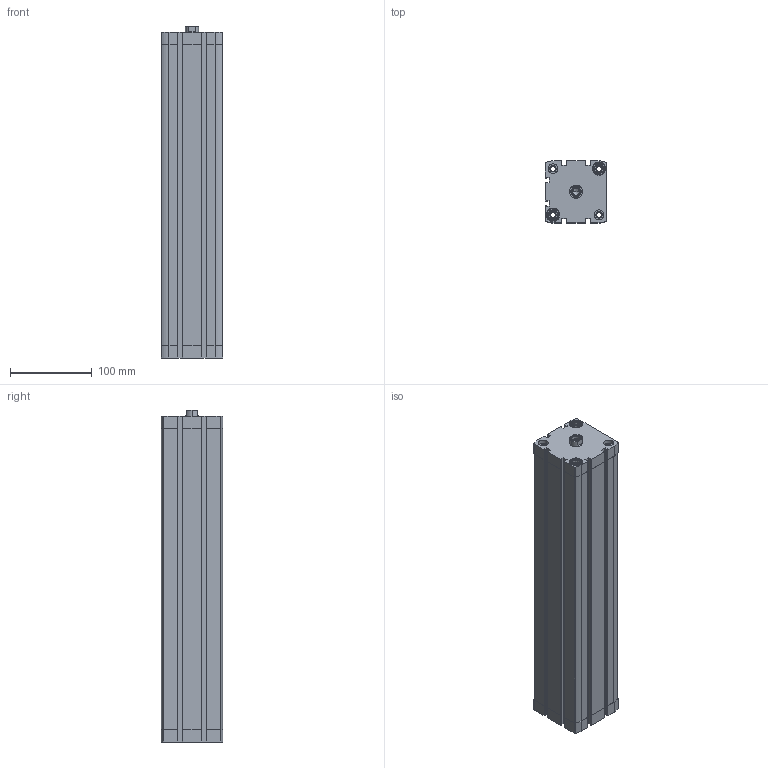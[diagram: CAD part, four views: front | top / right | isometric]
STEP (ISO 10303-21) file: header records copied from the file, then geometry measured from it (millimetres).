
FILE_DESCRIPTION (( 'STEP AP203' ), '1' );
FILE_NAME ('CCN63-350F.STEP', '2017-04-05T16:36:36', ( '' ), ( '' ), 'SwSTEP 2.0', 'SolidWorks 2016', '' );
FILE_SCHEMA (( 'CONFIG_CONTROL_DESIGN' ));
Length unit declared in the file: millimetre
Products named in the file (3): CCN-350---(Z); CCN-350_(KS); CCN63-350F
Assembly tree (2 placements, depth 2):
  CCN63-350F
    CCN-350---(Z)
    CCN-350_(KS)
Bounding box: 75.5 x 75.5 x 406.5 mm (x, y, z)
Volume: 1073315.5 mm3; surface area: 302042.1 mm2
Topology: 2 solids, 2 shells, 471 faces, 1282 edges, 845 vertices
Faces by surface type: plane 219, cylinder 210, cone 42
Entity records: 15389 total; most frequent: CARTESIAN_POINT 2895, DIRECTION 2612, ORIENTED_EDGE 2560, EDGE_CURVE 1280, AXIS2_PLACEMENT_3D 954, VERTEX_POINT 845, LINE 704, VECTOR 704
